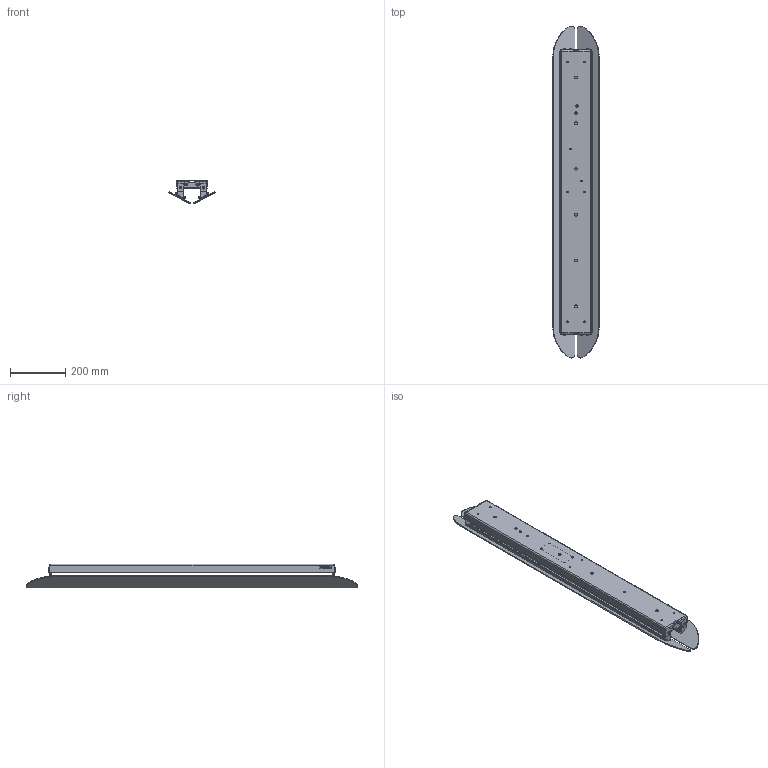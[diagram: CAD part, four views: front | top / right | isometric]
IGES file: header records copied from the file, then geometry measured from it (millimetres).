
Start section: SolidWorks IGES file using analytic representation for surfaces
Global section: file name: C:\VaultDeCastelli\Progetti\DC\PESO LEGGERO PRODOTTI\Ale\DeCastelli-3D-Aare 120.igs; native system: SolidWorks 2022; preprocessor: SolidWorks 2022; author: AlessandroP; date: 240726.104054; units: millimetre
Bounding box: 167.27 x 1200.16 x 86.69 mm (x, y, z)
Surface area: 942728.7 mm2 (no closed solid volume)
Topology: 0 solids, 0 shells, 339 faces, 6536 edges, 6536 vertices
Faces by surface type: bspline 180, revolution 159
